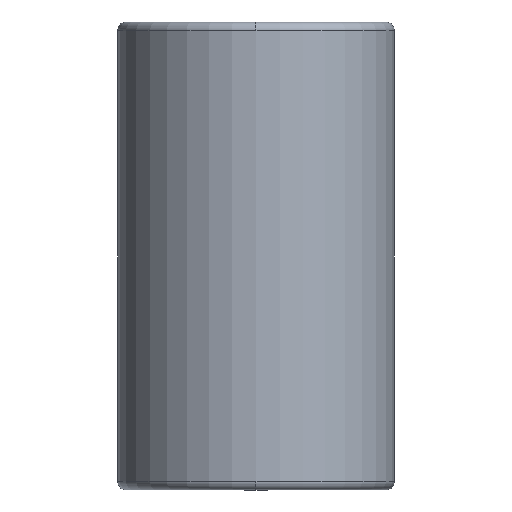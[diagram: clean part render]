
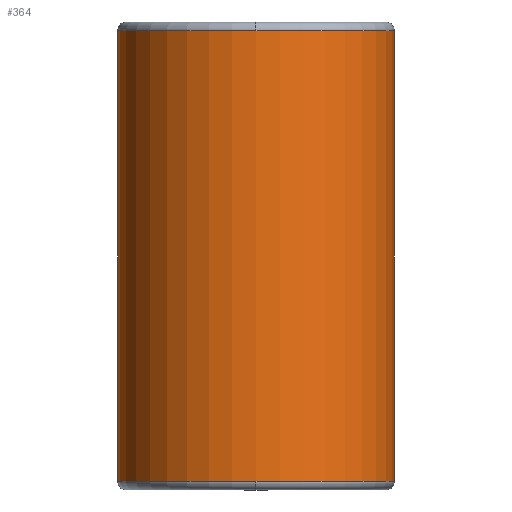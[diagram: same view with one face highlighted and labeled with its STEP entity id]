
A CAD part, front view. The second image highlights one B-rep face of the part: STEP entity #364.
In plain terms, the highlighted cylindrical face has radius 32.493 mm (diameter 64.986 mm), a partial arc.
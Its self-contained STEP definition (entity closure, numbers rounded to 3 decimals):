
#269=CARTESIAN_POINT('',(0.0,-32.493,108.));
#270=VERTEX_POINT('',#269);
#296=CARTESIAN_POINT('',(-32.493,0.,108.0));
#297=VERTEX_POINT('',#296);
#305=CARTESIAN_POINT('',(0.0,0.,108.0));
#306=DIRECTION('',(0.0,0.0,1.0));
#307=DIRECTION('',(1.0,0.0,0.0));
#308=AXIS2_PLACEMENT_3D('',#305,#306,#307);
#309=CIRCLE('',#308,32.493);
#310=EDGE_CURVE('',#297,#270,#309,.T.);
#315=CARTESIAN_POINT('',(0.0,0.,55.0));
#316=DIRECTION('',(0.0,0.,1.0));
#317=DIRECTION('',(1.0,0.0,0.0));
#318=AXIS2_PLACEMENT_3D('',#315,#316,#317);
#319=CYLINDRICAL_SURFACE('',#318,32.493);
#320=CARTESIAN_POINT('',(32.493,0.,108.0));
#321=VERTEX_POINT('',#320);
#322=CARTESIAN_POINT('',(32.493,0.,2.));
#323=VERTEX_POINT('',#322);
#324=CARTESIAN_POINT('',(32.493,0.,108.0));
#325=DIRECTION('',(0.0,0.0,-1.0));
#326=VECTOR('',#325,106.0);
#327=LINE('',#324,#326);
#328=EDGE_CURVE('',#321,#323,#327,.T.);
#329=ORIENTED_EDGE('',*,*,#328,.F.);
#330=CARTESIAN_POINT('',(0.0,0.,108.0));
#331=DIRECTION('',(0.0,0.0,1.0));
#332=DIRECTION('',(1.0,0.0,0.0));
#333=AXIS2_PLACEMENT_3D('',#330,#331,#332);
#334=CIRCLE('',#333,32.493);
#335=EDGE_CURVE('',#270,#321,#334,.T.);
#336=ORIENTED_EDGE('',*,*,#335,.F.);
#337=ORIENTED_EDGE('',*,*,#310,.F.);
#338=CARTESIAN_POINT('',(-32.493,0.,2.0));
#339=VERTEX_POINT('',#338);
#340=CARTESIAN_POINT('',(-32.493,0.,108.0));
#341=DIRECTION('',(0.0,0.0,-1.0));
#342=VECTOR('',#341,106.0);
#343=LINE('',#340,#342);
#344=EDGE_CURVE('',#297,#339,#343,.T.);
#345=ORIENTED_EDGE('',*,*,#344,.T.);
#346=CARTESIAN_POINT('',(0.0,-32.493,2.));
#347=VERTEX_POINT('',#346);
#348=CARTESIAN_POINT('',(0.0,0.,2.0));
#349=DIRECTION('',(0.0,0.0,1.0));
#350=DIRECTION('',(1.0,0.0,0.0));
#351=AXIS2_PLACEMENT_3D('',#348,#349,#350);
#352=CIRCLE('',#351,32.493);
#353=EDGE_CURVE('',#339,#347,#352,.T.);
#354=ORIENTED_EDGE('',*,*,#353,.T.);
#355=CARTESIAN_POINT('',(0.0,0.,2.0));
#356=DIRECTION('',(0.0,0.0,1.0));
#357=DIRECTION('',(1.0,0.0,0.0));
#358=AXIS2_PLACEMENT_3D('',#355,#356,#357);
#359=CIRCLE('',#358,32.493);
#360=EDGE_CURVE('',#347,#323,#359,.T.);
#361=ORIENTED_EDGE('',*,*,#360,.T.);
#362=EDGE_LOOP('',(#329,#336,#337,#345,#354,#361));
#363=FACE_OUTER_BOUND('',#362,.T.);
#364=ADVANCED_FACE('',(#363),#319,.T.);
